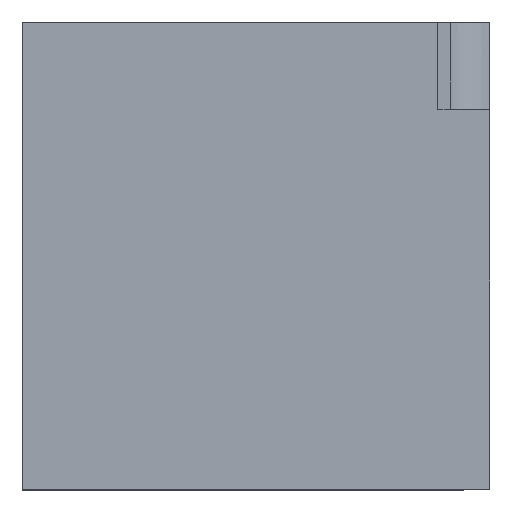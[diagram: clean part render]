
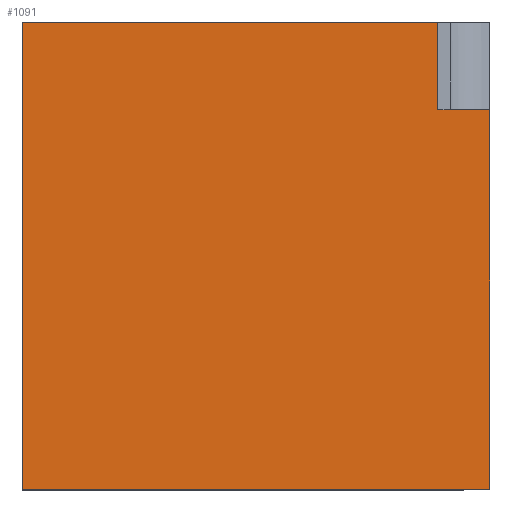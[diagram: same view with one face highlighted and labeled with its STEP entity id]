
A CAD part, top view. The second image highlights one B-rep face of the part: STEP entity #1091.
In plain terms, the highlighted planar face has unit normal (0, 0, 1).
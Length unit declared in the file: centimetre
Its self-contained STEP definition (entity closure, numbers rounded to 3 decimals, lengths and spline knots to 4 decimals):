
#30 = DIRECTION ( 'NONE',  ( 0., -1., 0. ) ) ;
#40 = LINE ( 'NONE', #1764, #1817 ) ;
#64 = PLANE ( 'NONE',  #782 ) ;
#69 = EDGE_CURVE ( 'NONE', #1144, #344, #1474, .T. ) ;
#72 = LINE ( 'NONE', #211, #1243 ) ;
#149 = CARTESIAN_POINT ( 'NONE',  ( 0., 1000., 1000. ) ) ;
#158 = LINE ( 'NONE', #339, #430 ) ;
#211 = CARTESIAN_POINT ( 'NONE',  ( 0., 0., 1000. ) ) ;
#339 = CARTESIAN_POINT ( 'NONE',  ( 1000., 1000., 1000. ) ) ;
#344 = VERTEX_POINT ( 'NONE', #1874 ) ;
#381 = CARTESIAN_POINT ( 'NONE',  ( 889.2364, 812.3288, 1000. ) ) ;
#430 = VECTOR ( 'NONE', #1797, 100. ) ;
#444 = EDGE_CURVE ( 'NONE', #1731, #1566, #158, .T. ) ;
#447 = ORIENTED_EDGE ( 'NONE', *, *, #69, .T. ) ;
#492 = EDGE_CURVE ( 'NONE', #1144, #1313, #40, .T. ) ;
#516 = LINE ( 'NONE', #1270, #1650 ) ;
#561 = LINE ( 'NONE', #1718, #1499 ) ;
#653 = ORIENTED_EDGE ( 'NONE', *, *, #444, .T. ) ;
#699 = ORIENTED_EDGE ( 'NONE', *, *, #1692, .T. ) ;
#729 = DIRECTION ( 'NONE',  ( -1., 0., 0. ) ) ;
#782 = AXIS2_PLACEMENT_3D ( 'NONE', #1819, #1538, #1101 ) ;
#832 = VERTEX_POINT ( 'NONE', #1558 ) ;
#934 = DIRECTION ( 'NONE',  ( 1., 0., 0. ) ) ;
#938 = ORIENTED_EDGE ( 'NONE', *, *, #1461, .F. ) ;
#1090 = FACE_OUTER_BOUND ( 'NONE', #1395, .T. ) ;
#1091 = ADVANCED_FACE ( 'NONE', ( #1090 ), #64, .T. ) ;
#1101 = DIRECTION ( 'NONE',  ( 1., 0., 0. ) ) ;
#1144 = VERTEX_POINT ( 'NONE', #1801 ) ;
#1208 = ORIENTED_EDGE ( 'NONE', *, *, #492, .F. ) ;
#1243 = VECTOR ( 'NONE', #934, 100. ) ;
#1263 = CARTESIAN_POINT ( 'NONE',  ( 1000., 0., 1000. ) ) ;
#1270 = CARTESIAN_POINT ( 'NONE',  ( 0., 1000., 1000. ) ) ;
#1306 = EDGE_CURVE ( 'NONE', #344, #832, #516, .T. ) ;
#1308 = CARTESIAN_POINT ( 'NONE',  ( 1000., 812.3288, 1000. ) ) ;
#1313 = VERTEX_POINT ( 'NONE', #381 ) ;
#1395 = EDGE_LOOP ( 'NONE', ( #1208, #447, #1620, #699, #653, #938 ) ) ;
#1461 = EDGE_CURVE ( 'NONE', #1313, #1566, #561, .T. ) ;
#1474 = LINE ( 'NONE', #149, #1661 ) ;
#1499 = VECTOR ( 'NONE', #1593, 100. ) ;
#1538 = DIRECTION ( 'NONE',  ( 0., 0., 1. ) ) ;
#1558 = CARTESIAN_POINT ( 'NONE',  ( 0., 0., 1000. ) ) ;
#1566 = VERTEX_POINT ( 'NONE', #1308 ) ;
#1593 = DIRECTION ( 'NONE',  ( 1., 0., 0. ) ) ;
#1620 = ORIENTED_EDGE ( 'NONE', *, *, #1306, .T. ) ;
#1650 = VECTOR ( 'NONE', #1700, 100. ) ;
#1661 = VECTOR ( 'NONE', #729, 100. ) ;
#1692 = EDGE_CURVE ( 'NONE', #832, #1731, #72, .T. ) ;
#1700 = DIRECTION ( 'NONE',  ( 0., -1., 0. ) ) ;
#1718 = CARTESIAN_POINT ( 'NONE',  ( 889.2364, 812.3288, 1000. ) ) ;
#1731 = VERTEX_POINT ( 'NONE', #1263 ) ;
#1764 = CARTESIAN_POINT ( 'NONE',  ( 889.2364, 812.3288, 1000. ) ) ;
#1797 = DIRECTION ( 'NONE',  ( 0., 1., 0. ) ) ;
#1801 = CARTESIAN_POINT ( 'NONE',  ( 889.2364, 1000., 1000. ) ) ;
#1817 = VECTOR ( 'NONE', #30, 100. ) ;
#1819 = CARTESIAN_POINT ( 'NONE',  ( 0., 0., 1000. ) ) ;
#1874 = CARTESIAN_POINT ( 'NONE',  ( 0., 1000., 1000. ) ) ;
